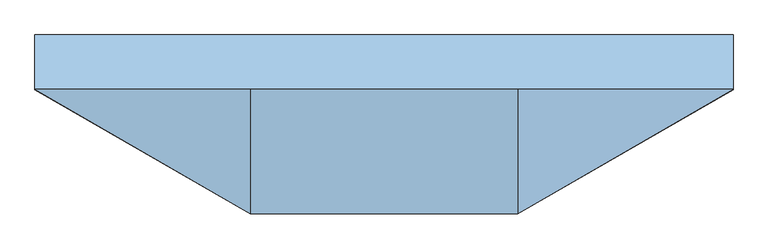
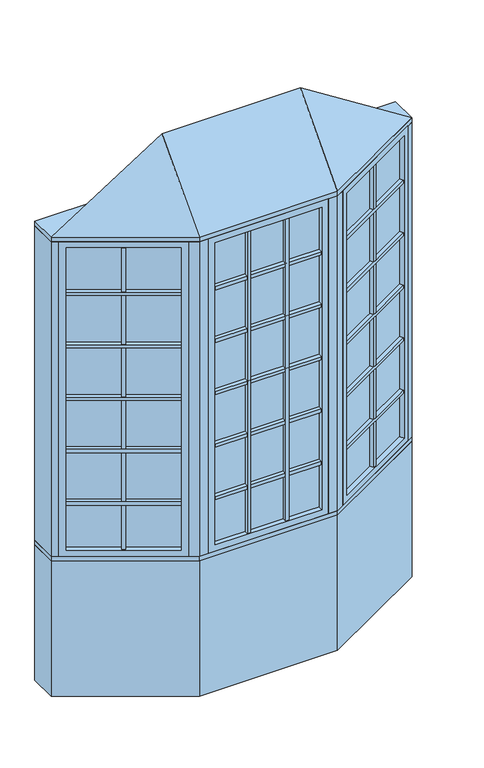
"""IFC4 building model written with IfcOpenShell, lengths in millimetres: window geometry, Pollard_Windows_Tudor Casement Bows and Bays : AML-BAY 30 AFR0618-08-600_GC."""

from ifc_helpers import new_model, si_unit, frame, origin, origin_with_axes, place, context, project, spatial, polyline, outline, extrude, faceted_brep, source, transform, mapped, element, save


def window_2981d4df(model_context):
    return source(origin(), model_context, "Body", "SolidModel", [
        extrude(outline(polyline([(446.881999, -376.6297343), (435.881999, -357.5771754), (902.1135794, -88.3982469), (913.1135794, -107.4508058), (446.881999, -376.6297343)])), frame((0.0, 0.0, 1690.998), z_axis=(0.0, 0.0, 1.0), x_axis=(1.0, 0.0, 0.0)), (0.0, 0.0, 1.0), 18.0),
        extrude(outline(polyline([(433.341999, -353.1777664), (422.341999, -334.1252075), (888.5735794, -64.946279), (899.5735794, -83.9988379), (433.341999, -353.1777664)])), frame((0.0, 0.0, 1690.998), z_axis=(0.0, 0.0, 1.0), x_axis=(1.0, 0.0, 0.0)), (0.0, 0.0, 1.0), 18.0),
        extrude(outline(polyline([(446.881999, -376.6297343), (435.881999, -357.5771754), (902.1135794, -88.3982469), (913.1135794, -107.4508058), (446.881999, -376.6297343)])), frame((0.0, 0.0, 1090.998), z_axis=(0.0, 0.0, 1.0), x_axis=(1.0, 0.0, 0.0)), (0.0, 0.0, 1.0), 18.0),
        extrude(outline(polyline([(433.341999, -353.1777664), (422.341999, -334.1252075), (888.5735794, -64.946279), (899.5735794, -83.9988379), (433.341999, -353.1777664)])), frame((0.0, 0.0, 1090.998), z_axis=(0.0, 0.0, 1.0), x_axis=(1.0, 0.0, 0.0)), (0.0, 0.0, 1.0), 18.0),
        extrude(outline(polyline([(446.881999, -376.6297343), (435.881999, -357.5771754), (902.1135794, -88.3982469), (913.1135794, -107.4508058), (446.881999, -376.6297343)])), frame((0.0, 0.0, 1390.998), z_axis=(0.0, 0.0, 1.0), x_axis=(1.0, 0.0, 0.0)), (0.0, 0.0, 1.0), 18.0),
        extrude(outline(polyline([(433.341999, -353.1777664), (422.341999, -334.1252075), (888.5735794, -64.946279), (899.5735794, -83.9988379), (433.341999, -353.1777664)])), frame((0.0, 0.0, 1390.998), z_axis=(0.0, 0.0, 1.0), x_axis=(1.0, 0.0, 0.0)), (0.0, 0.0, 1.0), 18.0),
        extrude(outline(polyline([(446.881999, -376.6297343), (435.881999, -357.5771754), (902.1135794, -88.3982469), (913.1135794, -107.4508058), (446.881999, -376.6297343)])), frame((0.0, 0.0, 1990.998), z_axis=(0.0, 0.0, 1.0), x_axis=(1.0, 0.0, 0.0)), (0.0, 0.0, 1.0), 18.0),
        extrude(outline(polyline([(433.341999, -353.1777664), (422.341999, -334.1252075), (888.5735794, -64.946279), (899.5735794, -83.9988379), (433.341999, -353.1777664)])), frame((0.0, 0.0, 1990.998), z_axis=(0.0, 0.0, 1.0), x_axis=(1.0, 0.0, 0.0)), (0.0, 0.0, 1.0), 18.0),
        extrude(outline(polyline([(446.881999, -376.6297343), (435.881999, -357.5771754), (902.1135794, -88.3982469), (913.1135794, -107.4508058), (446.881999, -376.6297343)])), frame((0.0, 0.0, 2290.998), z_axis=(0.0, 0.0, 1.0), x_axis=(1.0, 0.0, 0.0)), (0.0, 0.0, 1.0), 18.0),
        extrude(outline(polyline([(433.341999, -353.1777664), (422.341999, -334.1252075), (888.5735794, -64.946279), (899.5735794, -83.9988379), (433.341999, -353.1777664)])), frame((0.0, 0.0, 2290.998), z_axis=(0.0, 0.0, 1.0), x_axis=(1.0, 0.0, 0.0)), (0.0, 0.0, 1.0), 18.0),
        extrude(outline(polyline([(676.7920178, -218.4877112), (687.7920178, -237.5402701), (672.2035606, -246.5402701), (661.2035606, -227.4877112), (676.7920178, -218.4877112)])), frame((0.0, 0.0, 835.8628), z_axis=(0.0, 0.0, 1.0), x_axis=(1.0, 0.0, 0.0)), (0.0, 0.0, 1.0), 1728.2704),
        extrude(outline(polyline([(674.2520178, -214.0883021), (658.6635606, -223.0883021), (647.6635606, -204.0357432), (663.2520178, -195.0357432), (674.2520178, -214.0883021)])), frame((0.0, 0.0, 835.8628), z_axis=(0.0, 0.0, 1.0), x_axis=(1.0, 0.0, 0.0)), (0.0, 0.0, 1.0), 1728.2704),
        extrude(outline(polyline([(913.112102, -82.0482469), (424.8834764, -363.9271754), (422.3434764, -359.5277664), (910.572102, -77.6488379), (913.112102, -82.0482469)])), frame((0.0, 0.0, 823.1628), z_axis=(0.0, 0.0, 1.0), x_axis=(1.0, 0.0, 0.0)), (0.0, 0.0, 1.0), 1753.6704),
        faceted_brep([(902.1135794, -88.3982469, 835.8628), (914.8135794, -110.3952922, 835.8628), (914.8135794, -110.3952922, 2564.1332), (902.1135794, -88.3982469, 2564.1332), (910.572102, -77.6488379, 823.1628), (913.112102, -82.0482469, 823.1628), (913.112102, -82.0482469, 2576.8332), (910.572102, -77.6488379, 2576.8332), (886.8735794, -62.0017926, 835.8628), (899.5735794, -83.9988379, 835.8628), (899.5735794, -83.9988379, 2564.1332), (886.8735794, -62.0017926, 2564.1332), (945.8734073, -92.4628922, 799.998), (917.9334073, -44.0693926, 799.998), (917.9334073, -44.0693926, 2599.998), (945.8734073, -92.4628922, 2599.998), (448.581999, -379.5742207, 2564.1332), (435.881999, -357.5771754, 2564.1332), (424.8834764, -363.9271754, 2576.8332), (422.3434764, -359.5277664, 2576.8332), (433.341999, -353.1777664, 2564.1332), (420.641999, -331.1807211, 2564.1332), (389.5821711, -349.1131211, 2599.998), (417.5221711, -397.5066207, 2599.998), (448.581999, -379.5742207, 835.8628), (435.881999, -357.5771754, 835.8628), (424.8834764, -363.9271754, 823.1628), (422.3434764, -359.5277664, 823.1628), (433.341999, -353.1777664, 835.8628), (420.641999, -331.1807211, 835.8628), (389.5821711, -349.1131211, 799.998), (417.5221711, -397.5066207, 799.998)], [[[0, 1, 2, 3]], [[4, 5, 6, 7]], [[8, 9, 10, 11]], [[12, 13, 14, 15]], [[3, 2, 16, 17]], [[7, 6, 18, 19]], [[11, 10, 20, 21]], [[15, 14, 22, 23]], [[17, 16, 24, 25]], [[19, 18, 26, 27]], [[21, 20, 28, 29]], [[23, 22, 30, 31]], [[25, 24, 1, 0]], [[5, 26, 18, 6], [3, 17, 25, 0]], [[27, 26, 5, 4]], [[7, 19, 27, 4], [9, 28, 20, 10]], [[29, 28, 9, 8]], [[13, 30, 22, 14], [11, 21, 29, 8]], [[31, 30, 13, 12]], [[15, 23, 31, 12], [1, 24, 16, 2]]]),
        extrude(outline(polyline([(112.352167, -397.1066207), (112.352167, -419.1066207), (94.352167, -419.1066207), (94.352167, -397.1066207), (112.352167, -397.1066207)])), frame((0.0, 0.0, 835.8628), z_axis=(0.0, 0.0, 1.0), x_axis=(1.0, 0.0, 0.0)), (0.0, 0.0, 1.0), 1728.2704),
        extrude(outline(polyline([(112.352167, -392.0266207), (94.352167, -392.0266207), (94.352167, -370.0266207), (112.352167, -370.0266207), (112.352167, -392.0266207)])), frame((0.0, 0.0, 835.8628), z_axis=(0.0, 0.0, 1.0), x_axis=(1.0, 0.0, 0.0)), (0.0, 0.0, 1.0), 1728.2704),
        extrude(outline(polyline([(-94.352167, -397.1066207), (-94.352167, -419.1066207), (-112.352167, -419.1066207), (-112.352167, -397.1066207), (-94.352167, -397.1066207)])), frame((0.0, 0.0, 835.8628), z_axis=(0.0, 0.0, 1.0), x_axis=(1.0, 0.0, 0.0)), (0.0, 0.0, 1.0), 1728.2704),
        extrude(outline(polyline([(-94.352167, -392.0266207), (-112.352167, -392.0266207), (-112.352167, -370.0266207), (-94.352167, -370.0266207), (-94.352167, -392.0266207)])), frame((0.0, 0.0, 835.8628), z_axis=(0.0, 0.0, 1.0), x_axis=(1.0, 0.0, 0.0)), (0.0, 0.0, 1.0), 1728.2704),
        extrude(outline(polyline([(-288.3561009, -419.1066207), (-288.3561009, -397.1066207), (288.3561009, -397.1066207), (288.3561009, -419.1066207), (-288.3561009, -419.1066207)])), frame((0.0, 0.0, 1090.998), z_axis=(0.0, 0.0, 1.0), x_axis=(1.0, 0.0, 0.0)), (0.0, 0.0, 1.0), 18.0),
        extrude(outline(polyline([(-288.3561009, -392.0266207), (-288.3561009, -370.0266207), (288.3561009, -370.0266207), (288.3561009, -392.0266207), (-288.3561009, -392.0266207)])), frame((0.0, 0.0, 1090.998), z_axis=(0.0, 0.0, 1.0), x_axis=(1.0, 0.0, 0.0)), (0.0, 0.0, 1.0), 18.0),
        extrude(outline(polyline([(-288.3561009, -419.1066207), (-288.3561009, -397.1066207), (288.3561009, -397.1066207), (288.3561009, -419.1066207), (-288.3561009, -419.1066207)])), frame((0.0, 0.0, 1390.998), z_axis=(0.0, 0.0, 1.0), x_axis=(1.0, 0.0, 0.0)), (0.0, 0.0, 1.0), 18.0),
        extrude(outline(polyline([(-288.3561009, -392.0266207), (-288.3561009, -370.0266207), (288.3561009, -370.0266207), (288.3561009, -392.0266207), (-288.3561009, -392.0266207)])), frame((0.0, 0.0, 1390.998), z_axis=(0.0, 0.0, 1.0), x_axis=(1.0, 0.0, 0.0)), (0.0, 0.0, 1.0), 18.0),
        extrude(outline(polyline([(-288.3561009, -419.1066207), (-288.3561009, -397.1066207), (288.3561009, -397.1066207), (288.3561009, -419.1066207), (-288.3561009, -419.1066207)])), frame((0.0, 0.0, 1690.998), z_axis=(0.0, 0.0, 1.0), x_axis=(1.0, 0.0, 0.0)), (0.0, 0.0, 1.0), 18.0),
        extrude(outline(polyline([(-288.3561009, -392.0266207), (-288.3561009, -370.0266207), (288.3561009, -370.0266207), (288.3561009, -392.0266207), (-288.3561009, -392.0266207)])), frame((0.0, 0.0, 1690.998), z_axis=(0.0, 0.0, 1.0), x_axis=(1.0, 0.0, 0.0)), (0.0, 0.0, 1.0), 18.0),
        extrude(outline(polyline([(-288.3561009, -419.1066207), (-288.3561009, -397.1066207), (288.3561009, -397.1066207), (288.3561009, -419.1066207), (-288.3561009, -419.1066207)])), frame((0.0, 0.0, 1990.998), z_axis=(0.0, 0.0, 1.0), x_axis=(1.0, 0.0, 0.0)), (0.0, 0.0, 1.0), 18.0),
        extrude(outline(polyline([(-288.3561009, -392.0266207), (-288.3561009, -370.0266207), (288.3561009, -370.0266207), (288.3561009, -392.0266207), (-288.3561009, -392.0266207)])), frame((0.0, 0.0, 1990.998), z_axis=(0.0, 0.0, 1.0), x_axis=(1.0, 0.0, 0.0)), (0.0, 0.0, 1.0), 18.0),
        extrude(outline(polyline([(-913.1135794, -107.4508058), (-902.1135794, -88.3982469), (-435.881999, -357.5771754), (-446.881999, -376.6297343), (-913.1135794, -107.4508058)])), frame((0.0, 0.0, 1090.998), z_axis=(0.0, 0.0, 1.0), x_axis=(1.0, 0.0, 0.0)), (0.0, 0.0, 1.0), 18.0),
        extrude(outline(polyline([(-899.5735794, -83.9988379), (-888.5735794, -64.946279), (-422.341999, -334.1252075), (-433.341999, -353.1777664), (-899.5735794, -83.9988379)])), frame((0.0, 0.0, 1090.998), z_axis=(0.0, 0.0, 1.0), x_axis=(1.0, 0.0, 0.0)), (0.0, 0.0, 1.0), 18.0),
        extrude(outline(polyline([(-913.1135794, -107.4508058), (-902.1135794, -88.3982469), (-435.881999, -357.5771754), (-446.881999, -376.6297343), (-913.1135794, -107.4508058)])), frame((0.0, 0.0, 1390.998), z_axis=(0.0, 0.0, 1.0), x_axis=(1.0, 0.0, 0.0)), (0.0, 0.0, 1.0), 18.0),
        extrude(outline(polyline([(-899.5735794, -83.9988379), (-888.5735794, -64.946279), (-422.341999, -334.1252075), (-433.341999, -353.1777664), (-899.5735794, -83.9988379)])), frame((0.0, 0.0, 1390.998), z_axis=(0.0, 0.0, 1.0), x_axis=(1.0, 0.0, 0.0)), (0.0, 0.0, 1.0), 18.0),
        extrude(outline(polyline([(-913.1135794, -107.4508058), (-902.1135794, -88.3982469), (-435.881999, -357.5771754), (-446.881999, -376.6297343), (-913.1135794, -107.4508058)])), frame((0.0, 0.0, 1690.998), z_axis=(0.0, 0.0, 1.0), x_axis=(1.0, 0.0, 0.0)), (0.0, 0.0, 1.0), 18.0),
        extrude(outline(polyline([(-899.5735794, -83.9988379), (-888.5735794, -64.946279), (-422.341999, -334.1252075), (-433.341999, -353.1777664), (-899.5735794, -83.9988379)])), frame((0.0, 0.0, 1690.998), z_axis=(0.0, 0.0, 1.0), x_axis=(1.0, 0.0, 0.0)), (0.0, 0.0, 1.0), 18.0),
        extrude(outline(polyline([(-913.1135794, -107.4508058), (-902.1135794, -88.3982469), (-435.881999, -357.5771754), (-446.881999, -376.6297343), (-913.1135794, -107.4508058)])), frame((0.0, 0.0, 1990.998), z_axis=(0.0, 0.0, 1.0), x_axis=(1.0, 0.0, 0.0)), (0.0, 0.0, 1.0), 18.0),
        extrude(outline(polyline([(-899.5735794, -83.9988379), (-888.5735794, -64.946279), (-422.341999, -334.1252075), (-433.341999, -353.1777664), (-899.5735794, -83.9988379)])), frame((0.0, 0.0, 1990.998), z_axis=(0.0, 0.0, 1.0), x_axis=(1.0, 0.0, 0.0)), (0.0, 0.0, 1.0), 18.0),
        extrude(outline(polyline([(-913.1135794, -107.4508058), (-902.1135794, -88.3982469), (-435.881999, -357.5771754), (-446.881999, -376.6297343), (-913.1135794, -107.4508058)])), frame((0.0, 0.0, 2290.998), z_axis=(0.0, 0.0, 1.0), x_axis=(1.0, 0.0, 0.0)), (0.0, 0.0, 1.0), 18.0),
        extrude(outline(polyline([(-899.5735794, -83.9988379), (-888.5735794, -64.946279), (-422.341999, -334.1252075), (-433.341999, -353.1777664), (-899.5735794, -83.9988379)])), frame((0.0, 0.0, 2290.998), z_axis=(0.0, 0.0, 1.0), x_axis=(1.0, 0.0, 0.0)), (0.0, 0.0, 1.0), 18.0),
        extrude(outline(polyline([(-288.3561009, -419.1066207), (-288.3561009, -397.1066207), (288.3561009, -397.1066207), (288.3561009, -419.1066207), (-288.3561009, -419.1066207)])), frame((0.0, 0.0, 2290.998), z_axis=(0.0, 0.0, 1.0), x_axis=(1.0, 0.0, 0.0)), (0.0, 0.0, 1.0), 18.0),
        extrude(outline(polyline([(-288.3561009, -392.0266207), (-288.3561009, -370.0266207), (288.3561009, -370.0266207), (288.3561009, -392.0266207), (-288.3561009, -392.0266207)])), frame((0.0, 0.0, 2290.998), z_axis=(0.0, 0.0, 1.0), x_axis=(1.0, 0.0, 0.0)), (0.0, 0.0, 1.0), 18.0),
        extrude(outline(polyline([(-661.2035606, -227.4877112), (-672.2035606, -246.5402701), (-687.7920178, -237.5402701), (-676.7920178, -218.4877112), (-661.2035606, -227.4877112)])), frame((0.0, 0.0, 835.8628), z_axis=(0.0, 0.0, 1.0), x_axis=(1.0, 0.0, 0.0)), (0.0, 0.0, 1.0), 1728.2704),
        extrude(outline(polyline([(-658.6635606, -223.0883021), (-674.2520178, -214.0883021), (-663.2520178, -195.0357432), (-647.6635606, -204.0357432), (-658.6635606, -223.0883021)])), frame((0.0, 0.0, 835.8628), z_axis=(0.0, 0.0, 1.0), x_axis=(1.0, 0.0, 0.0)), (0.0, 0.0, 1.0), 1728.2704),
        extrude(outline(polyline([(-424.8834764, -363.9271754), (-913.112102, -82.0482469), (-910.572102, -77.6488379), (-422.3434764, -359.5277664), (-424.8834764, -363.9271754)])), frame((0.0, 0.0, 823.1628), z_axis=(0.0, 0.0, 1.0), x_axis=(1.0, 0.0, 0.0)), (0.0, 0.0, 1.0), 1753.6704),
        faceted_brep([(-433.341999, -353.1777664, 2564.1332), (-420.641999, -331.1807211, 2564.1332), (-420.641999, -331.1807211, 835.8628), (-433.341999, -353.1777664, 835.8628), (-424.8834764, -363.9271754, 2576.8332), (-422.3434764, -359.5277664, 2576.8332), (-422.3434764, -359.5277664, 823.1628), (-424.8834764, -363.9271754, 823.1628), (-448.581999, -379.5742207, 2564.1332), (-435.881999, -357.5771754, 2564.1332), (-435.881999, -357.5771754, 835.8628), (-448.581999, -379.5742207, 835.8628), (-389.5821711, -349.1131211, 2599.998), (-417.5221711, -397.5066207, 2599.998), (-417.5221711, -397.5066207, 799.998), (-389.5821711, -349.1131211, 799.998), (-886.8735794, -62.0017926, 835.8628), (-899.5735794, -83.9988379, 835.8628), (-910.572102, -77.6488379, 823.1628), (-913.112102, -82.0482469, 823.1628), (-902.1135794, -88.3982469, 835.8628), (-914.8135794, -110.3952922, 835.8628), (-945.8734073, -92.4628922, 799.998), (-917.9334073, -44.0693926, 799.998), (-886.8735794, -62.0017926, 2564.1332), (-899.5735794, -83.9988379, 2564.1332), (-910.572102, -77.6488379, 2576.8332), (-913.112102, -82.0482469, 2576.8332), (-902.1135794, -88.3982469, 2564.1332), (-914.8135794, -110.3952922, 2564.1332), (-945.8734073, -92.4628922, 2599.998), (-917.9334073, -44.0693926, 2599.998)], [[[0, 1, 2, 3]], [[4, 5, 6, 7]], [[8, 9, 10, 11]], [[12, 13, 14, 15]], [[3, 2, 16, 17]], [[7, 6, 18, 19]], [[11, 10, 20, 21]], [[15, 14, 22, 23]], [[17, 16, 24, 25]], [[19, 18, 26, 27]], [[21, 20, 28, 29]], [[23, 22, 30, 31]], [[15, 23, 31, 12], [1, 24, 16, 2]], [[25, 24, 1, 0]], [[5, 26, 18, 6], [3, 17, 25, 0]], [[27, 26, 5, 4]], [[7, 19, 27, 4], [9, 28, 20, 10]], [[29, 28, 9, 8]], [[13, 30, 22, 14], [11, 21, 29, 8]], [[31, 30, 13, 12]]]),
        extrude(outline(polyline([(301.0561009, -397.1066207), (-301.0561009, -397.1066207), (-301.0561009, -392.0266207), (301.0561009, -392.0266207), (301.0561009, -397.1066207)])), frame((0.0, 0.0, 823.1628), z_axis=(0.0, 0.0, 1.0), x_axis=(1.0, 0.0, 0.0)), (0.0, 0.0, 1.0), 1753.6704),
        faceted_brep([(288.3561009, -397.1066207, 835.8628), (288.3561009, -422.5066207, 835.8628), (288.3561009, -422.5066207, 2564.1332), (288.3561009, -397.1066207, 2564.1332), (301.0561009, -392.0266207, 823.1628), (301.0561009, -397.1066207, 823.1628), (301.0561009, -397.1066207, 2576.8332), (301.0561009, -392.0266207, 2576.8332), (288.3561009, -366.6266207, 835.8628), (288.3561009, -392.0266207, 835.8628), (288.3561009, -392.0266207, 2564.1332), (288.3561009, -366.6266207, 2564.1332), (324.2209009, -422.5066207, 799.998), (324.2209009, -366.6266207, 799.998), (324.2209009, -366.6266207, 2599.998), (324.2209009, -422.5066207, 2599.998), (-288.3561009, -422.5066207, 2564.1332), (-288.3561009, -397.1066207, 2564.1332), (-301.0561009, -397.1066207, 2576.8332), (-301.0561009, -392.0266207, 2576.8332), (-288.3561009, -392.0266207, 2564.1332), (-288.3561009, -366.6266207, 2564.1332), (-324.2209009, -366.6266207, 2599.998), (-324.2209009, -422.5066207, 2599.998), (-288.3561009, -422.5066207, 835.8628), (-288.3561009, -397.1066207, 835.8628), (-301.0561009, -397.1066207, 823.1628), (-301.0561009, -392.0266207, 823.1628), (-288.3561009, -392.0266207, 835.8628), (-288.3561009, -366.6266207, 835.8628), (-324.2209009, -366.6266207, 799.998), (-324.2209009, -422.5066207, 799.998)], [[[0, 1, 2, 3]], [[4, 5, 6, 7]], [[8, 9, 10, 11]], [[12, 13, 14, 15]], [[3, 2, 16, 17]], [[7, 6, 18, 19]], [[11, 10, 20, 21]], [[15, 14, 22, 23]], [[17, 16, 24, 25]], [[19, 18, 26, 27]], [[21, 20, 28, 29]], [[23, 22, 30, 31]], [[15, 23, 31, 12], [1, 24, 16, 2]], [[25, 24, 1, 0]], [[5, 26, 18, 6], [3, 17, 25, 0]], [[27, 26, 5, 4]], [[7, 19, 27, 4], [9, 28, 20, 10]], [[29, 28, 9, 8]], [[13, 30, 22, 14], [11, 21, 29, 8]], [[31, 30, 13, 12]]]),
        faceted_brep([(976.5, -74.7806207, 2625.398), (374.2209009, -422.5066207, 2625.398), (-374.2209009, -422.5066207, 2625.398), (-976.5, -74.7806207, 2625.398), (-374.2209009, -74.7806207, 3006.398), (374.2209009, -74.7806207, 3006.398)], [[[0, 1, 2, 3]], [[3, 2, 4]], [[2, 1, 5, 4]], [[1, 0, 5]], [[0, 3, 4, 5]]]),
        extrude(outline(polyline([(-976.5, 77.6193793), (976.5, 77.6193793), (976.5, -74.7806207), (374.2209009, -422.5066207), (-374.2209009, -422.5066207), (-976.5, -74.7806207), (-976.5, 77.6193793)])), frame((0.0, 0.0, 2599.998), z_axis=(0.0, 0.0, 1.0), x_axis=(1.0, 0.0, 0.0)), (0.0, 0.0, 1.0), 25.4),
        extrude(outline(polyline([(-976.5, -74.7806207), (-976.5, 77.6193793), (-935.6645431, 77.6193793), (-935.6645431, -74.7806207), (-945.8734073, -92.4628922), (-976.5, -74.7806207)])), frame((0.0, 0.0, 799.998), z_axis=(0.0, 0.0, 1.0), x_axis=(1.0, 0.0, 0.0)), (0.0, 0.0, 1.0), 1800.0),
        extrude(outline(polyline([(976.5, 77.6193793), (976.5, -74.7806207), (945.8734073, -92.4628922), (935.6645431, -74.7806207), (935.6645431, 77.6193793), (976.5, 77.6193793)])), frame((0.0, 0.0, 799.998), z_axis=(0.0, 0.0, 1.0), x_axis=(1.0, 0.0, 0.0)), (0.0, 0.0, 1.0), 1800.0),
        extrude(outline(polyline([(374.2209009, -422.5066207), (324.2209009, -422.5066207), (324.2209009, -372.5066207), (360.8234413, -372.5066207), (392.5221711, -354.2053505), (417.5221711, -397.5066207), (374.2209009, -422.5066207)])), frame((0.0, 0.0, 799.998), z_axis=(0.0, 0.0, 1.0), x_axis=(1.0, 0.0, 0.0)), (0.0, 0.0, 1.0), 1800.0),
        extrude(outline(polyline([(-374.2209009, -422.5066207), (-417.5221711, -397.5066207), (-392.5221711, -354.2053505), (-360.8234413, -372.5066207), (-324.2209009, -372.5066207), (-324.2209009, -422.5066207), (-374.2209009, -422.5066207)])), frame((0.0, 0.0, 799.998), z_axis=(0.0, 0.0, 1.0), x_axis=(1.0, 0.0, 0.0)), (0.0, 0.0, 1.0), 1800.0),
        extrude(outline(polyline([(-374.2209009, -422.5066207), (-976.5, -74.7806207), (-976.5, 77.6193793), (-935.6645431, 77.6193793), (-333.385444, -270.1066207), (333.385444, -270.1066207), (935.6645431, 77.6193793), (976.5, 77.6193793), (976.5, -74.7806207), (374.2209009, -422.5066207), (-374.2209009, -422.5066207)])), frame((0.0, 0.0, 774.598), z_axis=(0.0, 0.0, 1.0), x_axis=(1.0, 0.0, 0.0)), (0.0, 0.0, 1.0), 25.4),
        extrude(outline(polyline([(-976.5, -74.7806207), (-976.5, 77.6193793), (-935.6645431, 77.6193793), (-333.385444, -270.1066207), (333.385444, -270.1066207), (935.6645431, 77.6193793), (976.5, 77.6193793), (976.5, -74.7806207), (374.2209009, -422.5066207), (-374.2209009, -422.5066207), (-976.5, -74.7806207)])), origin_with_axes(), (0.0, 0.0, 1.0), 774.598),
    ])


if __name__ == "__main__":
    model = new_model("IFC4")
    model_context = context("Model", 3, world=origin())
    ifc_project = project(units=[si_unit("LENGTHUNIT", "METRE", prefix="MILLI")], contexts=[model_context])
    site = spatial("IfcSite", under=ifc_project)
    building = spatial("IfcBuilding", under=site)
    placement = place(None, origin())
    window_shape = window_2981d4df(model_context)
    element("IfcWindow", 1, ObjectType="Pollard_Windows_Tudor Casement Bows and Bays : AML-BAY 30 AFR0618-08-600_GC", at=placement, inside=building, context=model_context, shape_type="MappedRepresentation", body=[
        mapped(window_shape, transform((0.0, 0.0, 0.0), x_axis=(1.0, 0.0, 0.0), y_axis=(0.0, 1.0, 0.0), z_axis=(0.0, 0.0, 1.0))),
    ])
    save(model, "model.ifc")
